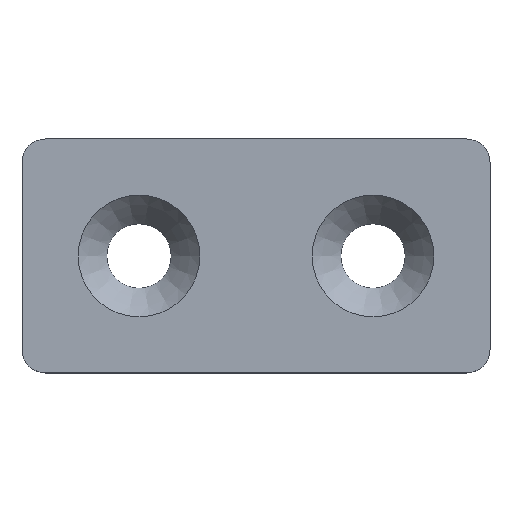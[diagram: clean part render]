
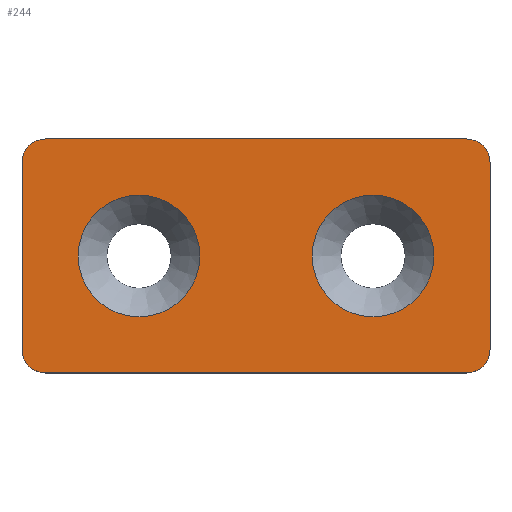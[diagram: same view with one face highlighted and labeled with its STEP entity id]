
A CAD part, top view. The second image highlights one B-rep face of the part: STEP entity #244.
In plain terms, the highlighted planar face has unit normal (0, 0, 1).
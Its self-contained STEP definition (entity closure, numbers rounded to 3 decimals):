
#26=PLANE('',#271);
#32=LINE('',#372,#48);
#36=LINE('',#384,#52);
#40=LINE('',#396,#56);
#43=LINE('',#405,#59);
#48=VECTOR('',#297,1000.);
#52=VECTOR('',#309,1000.);
#56=VECTOR('',#321,1000.);
#59=VECTOR('',#332,1000.);
#92=ORIENTED_EDGE('',*,*,#144,.F.);
#93=ORIENTED_EDGE('',*,*,#145,.F.);
#94=ORIENTED_EDGE('',*,*,#122,.T.);
#95=ORIENTED_EDGE('',*,*,#126,.T.);
#96=ORIENTED_EDGE('',*,*,#129,.T.);
#97=ORIENTED_EDGE('',*,*,#132,.T.);
#98=ORIENTED_EDGE('',*,*,#135,.T.);
#99=ORIENTED_EDGE('',*,*,#138,.T.);
#100=ORIENTED_EDGE('',*,*,#141,.T.);
#101=ORIENTED_EDGE('',*,*,#143,.T.);
#122=EDGE_CURVE('',#153,#152,#173,.T.);
#126=EDGE_CURVE('',#152,#155,#32,.T.);
#129=EDGE_CURVE('',#155,#157,#175,.T.);
#132=EDGE_CURVE('',#157,#159,#36,.T.);
#135=EDGE_CURVE('',#159,#161,#177,.T.);
#138=EDGE_CURVE('',#161,#163,#40,.T.);
#141=EDGE_CURVE('',#163,#165,#179,.T.);
#143=EDGE_CURVE('',#165,#153,#43,.T.);
#144=EDGE_CURVE('',#166,#166,#180,.T.);
#145=EDGE_CURVE('',#167,#167,#181,.T.);
#152=VERTEX_POINT('',#363);
#153=VERTEX_POINT('',#365);
#155=VERTEX_POINT('',#371);
#157=VERTEX_POINT('',#377);
#159=VERTEX_POINT('',#383);
#161=VERTEX_POINT('',#389);
#163=VERTEX_POINT('',#395);
#165=VERTEX_POINT('',#401);
#166=VERTEX_POINT('',#408);
#167=VERTEX_POINT('',#410);
#173=CIRCLE('',#257,2.);
#175=CIRCLE('',#261,2.);
#177=CIRCLE('',#265,2.);
#179=CIRCLE('',#269,2.);
#180=CIRCLE('',#272,5.2);
#181=CIRCLE('',#273,5.2);
#194=EDGE_LOOP('',(#92));
#195=EDGE_LOOP('',(#93));
#196=EDGE_LOOP('',(#94,#95,#96,#97,#98,#99,#100,#101));
#216=FACE_BOUND('',#194,.T.);
#217=FACE_BOUND('',#195,.T.);
#218=FACE_BOUND('',#196,.T.);
#244=ADVANCED_FACE('',(#216,#217,#218),#26,.T.);
#257=AXIS2_PLACEMENT_3D('',#364,#290,#291);
#261=AXIS2_PLACEMENT_3D('',#378,#303,#304);
#265=AXIS2_PLACEMENT_3D('',#390,#315,#316);
#269=AXIS2_PLACEMENT_3D('',#402,#327,#328);
#271=AXIS2_PLACEMENT_3D('',#406,#333,#334);
#272=AXIS2_PLACEMENT_3D('',#407,#335,#336);
#273=AXIS2_PLACEMENT_3D('',#409,#337,#338);
#290=DIRECTION('',(0.,0.,1.));
#291=DIRECTION('',(1.,0.,0.));
#297=DIRECTION('',(0.,-1.,0.));
#303=DIRECTION('',(0.,0.,1.));
#304=DIRECTION('',(1.,0.,0.));
#309=DIRECTION('',(1.,0.,0.));
#315=DIRECTION('',(0.,0.,1.));
#316=DIRECTION('',(1.,0.,0.));
#321=DIRECTION('',(0.,1.,0.));
#327=DIRECTION('',(0.,0.,1.));
#328=DIRECTION('',(1.,0.,0.));
#332=DIRECTION('',(-1.,0.,0.));
#333=DIRECTION('',(0.,0.,1.));
#334=DIRECTION('',(1.,0.,0.));
#335=DIRECTION('',(0.,0.,1.));
#336=DIRECTION('',(1.,0.,0.));
#337=DIRECTION('',(0.,0.,1.));
#338=DIRECTION('',(1.,0.,0.));
#363=CARTESIAN_POINT('',(0.,8.,3.));
#364=CARTESIAN_POINT('',(2.,8.,3.));
#365=CARTESIAN_POINT('',(2.,10.,3.));
#371=CARTESIAN_POINT('',(0.,-8.,3.));
#372=CARTESIAN_POINT('',(0.,8.,3.));
#377=CARTESIAN_POINT('',(2.,-10.,3.));
#378=CARTESIAN_POINT('',(2.,-8.,3.));
#383=CARTESIAN_POINT('',(38.,-10.,3.));
#384=CARTESIAN_POINT('',(2.,-10.,3.));
#389=CARTESIAN_POINT('',(40.,-8.,3.));
#390=CARTESIAN_POINT('',(38.,-8.,3.));
#395=CARTESIAN_POINT('',(40.,8.,3.));
#396=CARTESIAN_POINT('',(40.,-8.,3.));
#401=CARTESIAN_POINT('',(38.,10.,3.));
#402=CARTESIAN_POINT('',(38.,8.,3.));
#405=CARTESIAN_POINT('',(38.,10.,3.));
#406=CARTESIAN_POINT('',(2.,8.,3.));
#407=CARTESIAN_POINT('',(30.,0.,3.));
#408=CARTESIAN_POINT('',(35.2,0.,3.));
#409=CARTESIAN_POINT('',(10.,0.,3.));
#410=CARTESIAN_POINT('',(15.2,0.,3.));
